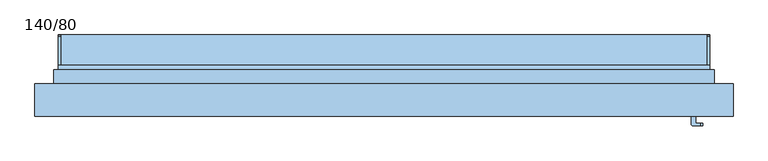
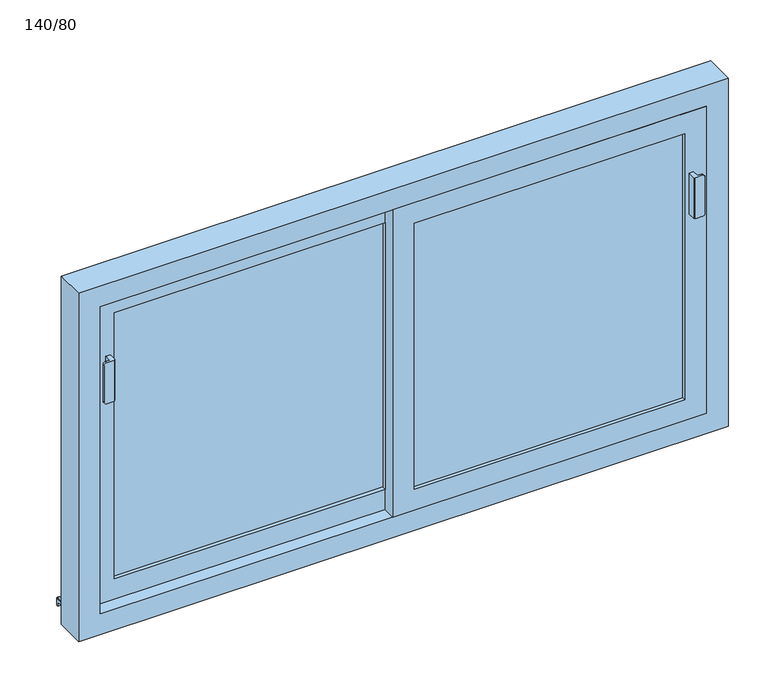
"""IFC4 building model written with IfcOpenShell, lengths in millimetres: window geometry, 2 Vantaux coulissants - Droits blanc : 140/80."""

import ifcopenshell
import ifcopenshell.guid

model = None  # the IFC model being written
_history = None  # IfcOwnerHistory: only IFC2X3 demands one
_inside = {}  # id of a spatial element -> (the spatial element, [elements in it])
_under = {}  # id of a project, library or spatial element -> (it, [spatial elements below it])
_declared = {}  # id of a project -> (the project, [libraries it declares])
_typed = {}  # id of a type object -> (the type object, [elements of that type])
_made_of = {}  # id of a material, layer set ... -> (it, [elements and type objects made of it])


def new_model(schema):
    """Start an empty IFC model of exactly this schema.

    Asked for "IFC4X3", IfcOpenShell would pick the latest addendum, in which some entities
    have other attributes; the version numbers below select the first issue.
    IFC2X3 requires an IfcOwnerHistory on every rooted entity: one is made here for all.
    """
    global model, _history
    if schema == "IFC4X3":
        model = ifcopenshell.file(schema_version=(4, 3, 0, 0))
    else:
        model = ifcopenshell.file(schema=schema)
    _inside.clear()
    _under.clear()
    _declared.clear()
    _typed.clear()
    _made_of.clear()
    _history = None
    if model.schema == "IFC2X3":
        org = make("IfcOrganization", Name="unknown")
        user = make(
            "IfcPersonAndOrganization",
            ThePerson=make("IfcPerson", FamilyName="unknown"),
            TheOrganization=org,
        )
        app = make(
            "IfcApplication",
            ApplicationDeveloper=org,
            Version="unknown",
            ApplicationFullName="unknown",
            ApplicationIdentifier="unknown",
        )
        _history = make(
            "IfcOwnerHistory",
            OwningUser=user,
            OwningApplication=app,
            ChangeAction="ADDED",
            CreationDate=0,
        )
    return model


def make(cls, **values):
    """One entity of the class cls with the attributes given. An attribute that is None is left unset."""
    return model.create_entity(
        cls, **{name: value for name, value in values.items() if value is not None}
    )


def rooted(cls, **values):
    """An entity with a GlobalId (a new one), such as an element, a storey or a relation."""
    return make(cls, GlobalId=ifcopenshell.guid.new(), OwnerHistory=_history, **values)


def si_unit(unit_type, name, prefix=None):
    """IfcSIUnit, for example si_unit("LENGTHUNIT", "METRE", prefix="MILLI")."""
    return make("IfcSIUnit", UnitType=unit_type, Prefix=prefix, Name=name)


def assignment(units):
    """IfcUnitAssignment: the units of a project."""
    return None if units is None else make("IfcUnitAssignment", Units=units)


def point(xyz):
    """IfcCartesianPoint."""
    return None if xyz is None else make("IfcCartesianPoint", Coordinates=xyz)


def direction(xyz):
    """IfcDirection."""
    return None if xyz is None else make("IfcDirection", DirectionRatios=xyz)


def frame(location, z_axis=None, x_axis=None):
    """IfcAxis2Placement3D, a coordinate frame: its origin and axes. An axis left out is left unset."""
    return make(
        "IfcAxis2Placement3D",
        Location=point(location),
        Axis=direction(z_axis),
        RefDirection=direction(x_axis),
    )


def frame_2d(location, x_axis=None):
    """IfcAxis2Placement2D, a coordinate frame in the plane: its origin and x axis."""
    return make(
        "IfcAxis2Placement2D", Location=point(location), RefDirection=direction(x_axis)
    )


def origin():
    """The frame at (0, 0, 0) with its axes left unset."""
    return frame((0.0, 0.0, 0.0))


def place(relative_to, where):
    """IfcLocalPlacement: puts the frame where relative to a parent placement (None: the world)."""
    return make(
        "IfcLocalPlacement", PlacementRelTo=relative_to, RelativePlacement=where
    )


def context(
    kind, dimensions, precision=None, world=None, true_north=None, identifier=None
):
    """IfcGeometricRepresentationContext, for example the 3D "Model" context."""
    return make(
        "IfcGeometricRepresentationContext",
        ContextIdentifier=identifier,
        ContextType=kind,
        CoordinateSpaceDimension=dimensions,
        Precision=precision,
        WorldCoordinateSystem=world,
        TrueNorth=true_north,
    )


def project(units=None, contexts=None):
    """IfcProject with its units and contexts."""
    return rooted(
        "IfcProject",
        Name="project",
        RepresentationContexts=contexts,
        UnitsInContext=assignment(units),
    )


def spatial(cls, under=None, at=None, **own):
    """A site, building, storey or space (cls), placed at a placement, below another one or the project."""
    s = rooted(cls, ObjectPlacement=at, **own)
    if under is not None:
        _under.setdefault(under.id(), (under, []))[1].append(s)
    return s


def polyline(points):
    """IfcPolyline through the points."""
    return make("IfcPolyline", Points=[point(p) for p in points])


def circle_curve(where, radius):
    """IfcCircle in the frame where."""
    return make("IfcCircle", Position=where, Radius=radius)


def trimmed(basis, trim1, trim2, sense, master):
    """IfcTrimmedCurve: the piece of a basis curve between two trims."""
    return make(
        "IfcTrimmedCurve",
        BasisCurve=basis,
        Trim1=trim1,
        Trim2=trim2,
        SenseAgreement=sense,
        MasterRepresentation=master,
    )


def segment(curve, same_sense, transition):
    """IfcCompositeCurveSegment."""
    return make(
        "IfcCompositeCurveSegment",
        Transition=transition,
        SameSense=same_sense,
        ParentCurve=curve,
    )


def composite_curve(segments, self_intersect=None):
    """IfcCompositeCurve: segments joined end to end."""
    return make("IfcCompositeCurve", Segments=segments, SelfIntersect=self_intersect)


def outline(outer, holes=None, kind="AREA"):
    """IfcArbitraryClosedProfileDef: a profile drawn as a closed curve; with holes, ...WithVoids."""
    if holes is None:
        return make("IfcArbitraryClosedProfileDef", ProfileType=kind, OuterCurve=outer)
    return make(
        "IfcArbitraryProfileDefWithVoids",
        ProfileType=kind,
        OuterCurve=outer,
        InnerCurves=holes,
    )


def extrude(swept, where, along, depth):
    """IfcExtrudedAreaSolid: the profile swept, set in the frame where, extruded along a direction by depth."""
    return make(
        "IfcExtrudedAreaSolid",
        SweptArea=swept,
        Position=where,
        ExtrudedDirection=direction(along),
        Depth=depth,
    )


def faces_of(points, faces, orient=None, outer=None):
    """IfcFace entities. A face is a list of loops; a loop is a list of indices into points, from 0.

    orient and outer hold one flag for each loop. By default every Orientation is true, the
    first loop of a face is its IfcFaceOuterBound and the others are IfcFaceBound.
    """
    made = []
    for i, loops in enumerate(faces):
        bounds = []
        for j, loop in enumerate(loops):
            is_outer = j == 0 if outer is None else outer[i][j]
            bounds.append(
                make(
                    "IfcFaceOuterBound" if is_outer else "IfcFaceBound",
                    Bound=make("IfcPolyLoop", Polygon=[points[k] for k in loop]),
                    Orientation=True if orient is None else orient[i][j],
                )
            )
        made.append(make("IfcFace", Bounds=bounds))
    return made


def faceted_brep(points, faces, orient=None, outer=None, voids=None):
    """IfcFacetedBrep: a solid bounded by flat faces; with voids (closed shells), ...WithVoids."""
    shared = [point(p) for p in points]
    hull = make("IfcClosedShell", CfsFaces=faces_of(shared, faces, orient, outer))
    if voids is None:
        return make("IfcFacetedBrep", Outer=hull)
    return make(
        "IfcFacetedBrepWithVoids",
        Outer=hull,
        Voids=[
            make(cls, CfsFaces=faces_of(shared, fs, o, b)) for cls, fs, o, b in voids
        ],
    )


def shape(context_of_items, identifier, shape_type, items):
    """IfcShapeRepresentation: the items that make up one representation, for example the "Body"."""
    return make(
        "IfcShapeRepresentation",
        ContextOfItems=context_of_items,
        RepresentationIdentifier=identifier,
        RepresentationType=shape_type,
        Items=items,
    )


def source(mapping_origin, context_of_items, identifier, shape_type, items):
    """IfcRepresentationMap: a shape defined once, which mapped items show again and again."""
    return make(
        "IfcRepresentationMap",
        MappingOrigin=mapping_origin,
        MappedRepresentation=shape(context_of_items, identifier, shape_type, items),
    )


def transform(
    local_origin,
    x_axis=None,
    y_axis=None,
    z_axis=None,
    scale=None,
    scale2=None,
    scale3=None,
    uniform=True,
):
    """IfcCartesianTransformationOperator3D, or its non-uniform kind. x_axis, y_axis, z_axis: its Axis1, 2, 3."""
    if uniform:
        return make(
            "IfcCartesianTransformationOperator3D",
            Axis1=direction(x_axis),
            Axis2=direction(y_axis),
            LocalOrigin=point(local_origin),
            Scale=scale,
            Axis3=direction(z_axis),
        )
    return make(
        "IfcCartesianTransformationOperator3DnonUniform",
        Axis1=direction(x_axis),
        Axis2=direction(y_axis),
        LocalOrigin=point(local_origin),
        Scale=scale,
        Axis3=direction(z_axis),
        Scale2=scale2,
        Scale3=scale3,
    )


def mapped(mapping_source, mapping_target):
    """IfcMappedItem: shows the shape of a source again, moved by a transform."""
    return make(
        "IfcMappedItem", MappingSource=mapping_source, MappingTarget=mapping_target
    )


def made_of(thing, what):
    """Note that an element or type object is made of a material, layer set ...; save() writes the relation."""
    if what is not None:
        _made_of.setdefault(what.id(), (what, []))[1].append(thing)
    return thing


def element(
    cls,
    number,
    at=None,
    inside=None,
    cuts=None,
    type_object=None,
    material=None,
    context=None,
    identifier="Body",
    shape_type=None,
    held_by="IfcProductDefinitionShape",
    body=None,
    shapes=None,
    **own,
):
    """One element of the class cls, such as IfcWall. Its Tag is "e" and its number.

    at: its placement. inside: the storey or other place that contains it. cuts: it is an
    opening in that element (IfcRelVoidsElement). A single representation is given by context,
    identifier, shape_type and body (its items); several are given by shapes. held_by: the class
    of the entity that holds the representations. save() writes the other relations.
    """
    e = rooted(cls, Tag="e%d" % number, ObjectPlacement=at, **own)
    if body is not None:
        shapes = [shape(context, identifier, shape_type, body)]
    if shapes is not None:
        e.Representation = make(held_by, Representations=shapes)
    if inside is not None:
        _inside.setdefault(inside.id(), (inside, []))[1].append(e)
    if cuts is not None:
        rooted(
            "IfcRelVoidsElement", RelatingBuildingElement=cuts, RelatedOpeningElement=e
        )
    if type_object is not None:
        _typed.setdefault(type_object.id(), (type_object, []))[1].append(e)
    return made_of(e, material)


def aggregate(whole, parts):
    """IfcRelAggregates: a whole, such as a stair, and the parts it consists of."""
    return rooted("IfcRelAggregates", RelatingObject=whole, RelatedObjects=parts)


def save(model, path):
    """Write the relations noted so far, then the file.

    IfcRelAggregates (storeys below a building ...), IfcRelContainedInSpatialStructure (elements
    in a storey), IfcRelDefinesByType, IfcRelAssociatesMaterial and IfcRelDeclares: one each for
    every whole, place, type object, material and project.
    """
    for whole, parts in _under.values():
        aggregate(whole, parts)
    for where, things in _inside.values():
        rooted(
            "IfcRelContainedInSpatialStructure",
            RelatedElements=things,
            RelatingStructure=where,
        )
    for kind, things in _typed.values():
        rooted("IfcRelDefinesByType", RelatedObjects=things, RelatingType=kind)
    for what, things in _made_of.values():
        rooted("IfcRelAssociatesMaterial", RelatedObjects=things, RelatingMaterial=what)
    for by, libraries in _declared.values():
        rooted("IfcRelDeclares", RelatingContext=by, RelatedDefinitions=libraries)
    model.write(path)


def plane_surface(at):
    """IfcPlane: the flat surface through the origin of the frame at, square to its z axis."""
    return make("IfcPlane", Position=at)


def cylinder_surface(at, radius):
    """IfcCylindricalSurface: all points at the distance radius from the z axis of the frame at."""
    return make("IfcCylindricalSurface", Position=at, Radius=radius)


def advanced_brep(points, edges, surfaces, faces):
    """IfcAdvancedBrep: a solid bounded by faces that lie on surfaces and meet in shared edges.

    An edge is (start, end): straight between two places in points (the first is 0);
    or (start, end, curve); or (start, end, curve, False) where it runs against its curve.
    A face is (place in surfaces, loops), or (place, loops, False) where it looks against
    its surface's normal. A loop lists edges by number (the first is 1), with a minus sign
    where the edge is run from its end to its start. The first loop is the outer one.
    """
    corners = [point(p) for p in points]
    vertices = [make("IfcVertexPoint", VertexGeometry=c) for c in corners]
    made = []
    for start, end, *more in edges:
        made.append(
            make(
                "IfcEdgeCurve",
                EdgeStart=vertices[start],
                EdgeEnd=vertices[end],
                EdgeGeometry=more[0] if more else make("IfcPolyline", Points=[corners[start], corners[end]]),
                SameSense=more[1] if len(more) > 1 else True,
            )
        )
    hull = []
    for where, loops, *sense in faces:
        bounds = []
        for j, loop in enumerate(loops):
            ring = [make("IfcOrientedEdge", EdgeElement=made[abs(k) - 1], Orientation=k > 0) for k in loop]
            bounds.append(
                make(
                    "IfcFaceOuterBound" if j == 0 else "IfcFaceBound",
                    Bound=make("IfcEdgeLoop", EdgeList=ring),
                    Orientation=True,
                )
            )
        hull.append(make("IfcAdvancedFace", Bounds=bounds, FaceSurface=surfaces[where], SameSense=sense[0] if sense else True))
    return make("IfcAdvancedBrep", Outer=make("IfcClosedShell", CfsFaces=hull))


def window_140_80_76053404(model_context):
    return source(origin(), model_context, "Body", "SolidModel", [
        advanced_brep(
        [(-660.0, -67.5313182, 1350.0), (-662.4686818, -70.0, 1350.0), (-679.0477825, -70.0, 1350.0), (-679.0477825, -65.0, 1350.0), (-670.0, -65.0, 1350.0), (-670.0, -50.0, 1350.0), (-660.0, -50.0, 1350.0), (-660.0, -67.5313182, 1450.0), (-660.0, -50.0, 1450.0), (-670.0, -50.0, 1450.0), (-670.0, -65.0, 1450.0), (-679.0477825, -65.0, 1450.0), (-679.0477825, -70.0, 1450.0), (-662.4686818, -70.0, 1450.0), (-685.0, -65.0, 1355.9522175), (-685.0, -65.0, 1444.0477825), (-685.0, -70.0, 1355.9522175), (-685.0, -70.0, 1444.0477825)],
        [
            (0, 1),
            (1, 2),
            (2, 3),
            (3, 4),
            (4, 5),
            (5, 6),
            (6, 0),
            (7, 8),
            (8, 9),
            (9, 10),
            (10, 11),
            (11, 12),
            (12, 13),
            (13, 7),
            (6, 8),
            (7, 0),
            (5, 9),
            (4, 10),
            (3, 14, circle_curve(frame((-679.0477825, -65.0, 1355.9522175), z_axis=(0.0, 1.0, 0.0), x_axis=(-1.0, 0.0, 0.0)), 5.9522175)),
            (14, 15),
            (15, 11, circle_curve(frame((-679.0477825, -65.0, 1444.0477825), z_axis=(0.0, 1.0, 0.0), x_axis=(-1.0, 0.0, 0.0)), 5.9522175)),
            (14, 16),
            (16, 17),
            (17, 15),
            (12, 17, circle_curve(frame((-679.0477825, -70.0, 1444.0477825), z_axis=(0.0, -1.0, 0.0), x_axis=(-1.0, 0.0, 0.0)), 5.9522175)),
            (16, 2, circle_curve(frame((-679.0477825, -70.0, 1355.9522175), z_axis=(0.0, -1.0, 0.0), x_axis=(-1.0, 0.0, 0.0)), 5.9522175)),
            (1, 13),
        ],
        [
            plane_surface(frame((-660.0, -50.0, 1350.0), z_axis=(0.0, 0.0, -1.0), x_axis=(0.0, 1.0, 0.0))),
            plane_surface(frame((-660.0, -50.0, 1450.0), z_axis=(0.0, 0.0, 1.0), x_axis=(0.0, -1.0, 0.0))),
            plane_surface(frame((-660.0, -67.5313182, 1350.0), z_axis=(1.0, 0.0, 0.0), x_axis=(0.0, 0.0, 1.0))),
            plane_surface(frame((-660.0, -50.0, 1350.0), z_axis=(0.0, 1.0, 0.0), x_axis=(0.0, 0.0, 1.0))),
            plane_surface(frame((-670.0, -50.0, 1350.0), z_axis=(-1.0, 0.0, 0.0), x_axis=(0.0, 0.0, 1.0))),
            plane_surface(frame((-670.0, -65.0, 1350.0), z_axis=(0.0, 1.0, 0.0), x_axis=(0.0, 0.0, 1.0))),
            plane_surface(frame((-685.0, -65.0, 1350.0), z_axis=(-1.0, 0.0, 0.0), x_axis=(0.0, 0.0, 1.0))),
            plane_surface(frame((-685.0, -70.0, 1350.0), z_axis=(0.0, -1.0, 0.0), x_axis=(0.0, 0.0, 1.0))),
            plane_surface(frame((-662.4686818, -70.0, 1350.0), z_axis=(0.7071067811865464, -0.7071067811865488, 0.0), x_axis=(0.0, 0.0, 1.0))),
            cylinder_surface(frame((-679.0477825, -65.0, 1444.0477825), z_axis=(0.0, 1.0, 0.0), x_axis=(-1.0, 0.0, 0.0)), 5.9522175),
            cylinder_surface(frame((-679.0477825, -65.0, 1355.9522175), z_axis=(0.0, 1.0, 0.0), x_axis=(-1.0, 0.0, 0.0)), 5.9522175),
        ],
        [
            (0, [[1, 2, 3, 4, 5, 6, 7]]),
            (1, [[8, 9, 10, 11, 12, 13, 14]]),
            (2, [[15, -8, 16, -7]]),
            (3, [[17, -9, -15, -6]]),
            (4, [[18, -10, -17, -5]]),
            (5, [[-4, 19, 20, 21, -11, -18]]),
            (6, [[22, 23, 24, -20]]),
            (7, [[-13, 25, -23, 26, -2, 27]]),
            (8, [[-16, -14, -27, -1]]),
            (9, [[-21, -24, -25, -12]]),
            (10, [[-26, -22, -19, -3]]),
        ],
    ),
        advanced_brep(
        [(660.0, -97.5313182, 1350.0), (660.0, -80.0, 1350.0), (670.0, -80.0, 1350.0), (670.0, -95.0, 1350.0), (679.0477825, -95.0, 1350.0), (679.0477825, -100.0, 1350.0), (662.4686818, -100.0, 1350.0), (660.0, -97.5313182, 1450.0), (662.4686818, -100.0, 1450.0), (679.0477825, -100.0, 1450.0), (679.0477825, -95.0, 1450.0), (670.0, -95.0, 1450.0), (670.0, -80.0, 1450.0), (660.0, -80.0, 1450.0), (685.0, -95.0, 1444.0477825), (685.0, -95.0, 1355.9522175), (685.0, -100.0, 1444.0477825), (685.0, -100.0, 1355.9522175)],
        [
            (0, 1),
            (1, 2),
            (2, 3),
            (3, 4),
            (4, 5),
            (5, 6),
            (6, 0),
            (7, 8),
            (8, 9),
            (9, 10),
            (10, 11),
            (11, 12),
            (12, 13),
            (13, 7),
            (0, 7),
            (13, 1),
            (12, 2),
            (11, 3),
            (10, 14, circle_curve(frame((679.0477825, -95.0, 1444.0477825), z_axis=(0.0, 1.0, 0.0), x_axis=(1.0, 0.0, 0.0)), 5.9522175)),
            (14, 15),
            (15, 4, circle_curve(frame((679.0477825, -95.0, 1355.9522175), z_axis=(0.0, 1.0, 0.0), x_axis=(1.0, 0.0, 0.0)), 5.9522175)),
            (14, 16),
            (16, 17),
            (17, 15),
            (8, 6),
            (5, 17, circle_curve(frame((679.0477825, -100.0, 1355.9522175), z_axis=(0.0, -1.0, 0.0), x_axis=(1.0, 0.0, 0.0)), 5.9522175)),
            (16, 9, circle_curve(frame((679.0477825, -100.0, 1444.0477825), z_axis=(0.0, -1.0, 0.0), x_axis=(1.0, 0.0, 0.0)), 5.9522175)),
        ],
        [
            plane_surface(frame((660.0, -80.0, 1350.0), z_axis=(0.0, 0.0, -1.0), x_axis=(0.0, 1.0, 0.0))),
            plane_surface(frame((660.0, -80.0, 1450.0), z_axis=(0.0, 0.0, 1.0), x_axis=(0.0, -1.0, 0.0))),
            plane_surface(frame((660.0, -97.5313182, 1350.0), z_axis=(-1.0, 0.0, 0.0), x_axis=(0.0, 0.0, 1.0))),
            plane_surface(frame((660.0, -80.0, 1350.0), z_axis=(0.0, 1.0, 0.0), x_axis=(0.0, 0.0, 1.0))),
            plane_surface(frame((670.0, -80.0, 1350.0), z_axis=(1.0, 0.0, 0.0), x_axis=(0.0, 0.0, 1.0))),
            plane_surface(frame((670.0, -95.0, 1350.0), z_axis=(0.0, 1.0, 0.0), x_axis=(0.0, 0.0, 1.0))),
            plane_surface(frame((685.0, -95.0, 1350.0), z_axis=(1.0, 0.0, 0.0), x_axis=(0.0, 0.0, 1.0))),
            plane_surface(frame((685.0, -100.0, 1350.0), z_axis=(0.0, -1.0, 0.0), x_axis=(0.0, 0.0, 1.0))),
            plane_surface(frame((662.4686818, -100.0, 1350.0), z_axis=(-0.7071067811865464, -0.7071067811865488, 0.0), x_axis=(0.0, 0.0, 1.0))),
            cylinder_surface(frame((679.0477825, -95.0, 1444.0477825), z_axis=(0.0, 1.0, 0.0), x_axis=(1.0, 0.0, 0.0)), 5.9522175),
            cylinder_surface(frame((679.0477825, -95.0, 1355.9522175), z_axis=(0.0, 1.0, 0.0), x_axis=(1.0, 0.0, 0.0)), 5.9522175),
        ],
        [
            (0, [[1, 2, 3, 4, 5, 6, 7]]),
            (1, [[8, 9, 10, 11, 12, 13, 14]]),
            (2, [[-1, 15, -14, 16]]),
            (3, [[-2, -16, -13, 17]]),
            (4, [[-3, -17, -12, 18]]),
            (5, [[-18, -11, 19, 20, 21, -4]]),
            (6, [[-20, 22, 23, 24]]),
            (7, [[25, -6, 26, -23, 27, -9]]),
            (8, [[-7, -25, -8, -15]]),
            (9, [[-10, -27, -22, -19]]),
            (10, [[-5, -21, -24, -26]]),
        ],
    ),
        extrude(outline(polyline([(95.0, 780.2703094), (95.0, 764.7145929), (90.0, 765.2401141), (90.0, 775.5406188), (0.0, 785.0), (0.0, 800.0), (5.0, 800.0), (5.0, 789.7296906), (95.0, 780.2703094)])), frame((-700.0, 0.0, 0.0), z_axis=(1.0, 0.0, 0.0), x_axis=(0.0, 1.0, 0.0)), (0.0, 0.0, 1.0), 1400.0),
        extrude(outline(composite_curve([segment(polyline([(95.0, 780.2703094), (5.0, 789.7296906), (5.0, 794.757232), (91.4181139, 785.6743222)]), True, "CONTINUOUS"), segment(trimmed(circle_curve(frame_2d((91.0, 781.6962346)), 4.0), [point((91.4181139, 785.6743222))], [point((95.0, 781.6962346))], False, "CARTESIAN"), True, "CONTINUOUS"), segment(polyline([(95.0, 781.6962346), (95.0, 780.2703094)]), True, "CONTINUOUS")], self_intersect=False)), frame((-700.0, 0.0, 0.0), z_axis=(1.0, 0.0, 0.0), x_axis=(0.0, 1.0, 0.0)), (0.0, 0.0, 1.0), 5.0),
        extrude(outline(composite_curve([segment(polyline([(95.0, 780.2703094), (5.0, 789.7296906), (5.0, 794.757232), (91.4181139, 785.6743222)]), True, "CONTINUOUS"), segment(trimmed(circle_curve(frame_2d((91.0, 781.6962346)), 4.0), [point((91.4181139, 785.6743222))], [point((95.0, 781.6962346))], False, "CARTESIAN"), True, "CONTINUOUS"), segment(polyline([(95.0, 781.6962346), (95.0, 780.2703094)]), True, "CONTINUOUS")], self_intersect=False)), frame((695.0, 0.0, 0.0), z_axis=(1.0, 0.0, 0.0), x_axis=(0.0, 1.0, 0.0)), (0.0, 0.0, 1.0), 5.0),
        extrude(outline(polyline([(-650.0, -29.0), (-25.0, -29.0), (-25.0, -41.0), (-650.0, -41.0), (-650.0, -29.0)])), frame((0.0, 0.0, 900.0), z_axis=(0.0, 0.0, 1.0), x_axis=(1.0, 0.0, 0.0)), (0.0, 0.0, 1.0), 650.0),
        extrude(outline(polyline([(850.0, 25.0), (1600.0, 25.0), (1600.0, -700.0), (850.0, -700.0), (850.0, 25.0)]), holes=[polyline([(900.0, -650.0), (1550.0, -650.0), (1550.0, -25.0), (900.0, -25.0), (900.0, -650.0)])]), frame((0.0, -50.0, 0.0), z_axis=(0.0, 1.0, 0.0), x_axis=(0.0, 0.0, 1.0)), (0.0, 0.0, 1.0), 30.0),
        extrude(outline(polyline([(25.0, -59.0), (650.0, -59.0), (650.0, -71.0), (25.0, -71.0), (25.0, -59.0)])), frame((0.0, 0.0, 900.0), z_axis=(0.0, 0.0, 1.0), x_axis=(1.0, 0.0, 0.0)), (0.0, 0.0, 1.0), 650.0),
        extrude(outline(polyline([(850.0, 700.0), (1600.0, 700.0), (1600.0, -25.0), (850.0, -25.0), (850.0, 700.0)]), holes=[polyline([(900.0, 25.0), (1550.0, 25.0), (1550.0, 650.0), (900.0, 650.0), (900.0, 25.0)])]), frame((0.0, -80.0, 0.0), z_axis=(0.0, 1.0, 0.0), x_axis=(0.0, 0.0, 1.0)), (0.0, 0.0, 1.0), 30.0),
        faceted_brep([(-750.0, -80.0, 800.0), (-750.0, -10.0, 800.0), (-700.0, -10.0, 800.0), (-700.0, 20.0, 800.0), (700.0, 20.0, 800.0), (700.0, -10.0, 800.0), (750.0, -10.0, 800.0), (750.0, -80.0, 800.0), (-750.0, -80.0, 1650.0), (-750.0, -10.0, 1650.0), (750.0, -10.0, 1650.0), (700.0, -10.0, 839.3761425), (-700.0, -10.0, 839.3761425), (-685.0, -10.0, 1585.0), (-685.0, -10.0, 865.0), (685.0, -10.0, 865.0), (685.0, -10.0, 1585.0), (-700.0, 30.0, 828.6581748), (-700.0, 30.0, 795.0), (-700.0, 20.0, 795.0), (700.0, 20.0, 795.0), (700.0, 30.0, 795.0), (700.0, 30.0, 828.6581748), (750.0, -80.0, 1650.0), (700.0, -80.0, 1600.0), (700.0, -80.0, 850.0), (-700.0, -80.0, 850.0), (-700.0, -80.0, 1600.0), (-685.0, -20.0, 1585.0), (-685.0, -20.0, 865.0), (685.0, -20.0, 865.0), (685.0, -20.0, 1585.0), (700.0, -20.0, 1600.0), (-700.0, -20.0, 1600.0), (-700.0, -20.0, 850.0), (700.0, -20.0, 850.0)], [[[0, 1, 2, 3, 4, 5, 6, 7]], [[1, 0, 8, 9]], [[1, 9, 10, 6, 5, 11, 12, 2], [13, 14, 15, 16]], [[12, 17, 18, 19, 3, 2]], [[3, 19, 20, 4]], [[4, 20, 21, 22, 11, 5]], [[6, 10, 23, 7]], [[0, 7, 23, 8], [24, 25, 26, 27]], [[13, 28, 29, 14]], [[29, 30, 15, 14]], [[31, 16, 15, 30]], [[17, 12, 11, 22]], [[32, 33, 34, 35], [28, 31, 30, 29]], [[34, 33, 27, 26]], [[26, 25, 35, 34]], [[24, 32, 35, 25]], [[18, 17, 22, 21]], [[19, 18, 21, 20]], [[13, 16, 31, 28]], [[33, 32, 24, 27]], [[10, 9, 8, 23]]]),
        extrude(outline(polyline([(800.0, -710.0), (800.0, -700.0), (1600.0, -700.0), (1600.0, 700.0), (800.0, 700.0), (800.0, 710.0), (1610.0, 710.0), (1610.0, -710.0), (800.0, -710.0)])), frame((0.0, -10.0, 0.0), z_axis=(0.0, 1.0, 0.0), x_axis=(0.0, 0.0, 1.0)), (0.0, 0.0, 1.0), 30.0),
    ])


if __name__ == "__main__":
    model = new_model("IFC4")
    model_context = context("Model", 3, world=origin())
    ifc_project = project(units=[si_unit("LENGTHUNIT", "METRE", prefix="MILLI")], contexts=[model_context])
    site = spatial("IfcSite", under=ifc_project)
    building = spatial("IfcBuilding", under=site)
    placement = place(None, origin())
    window_140_80_shape = window_140_80_76053404(model_context)
    element("IfcWindow", 1, ObjectType="2 Vantaux coulissants - Droits blanc : 140/80", at=placement, inside=building, context=model_context, shape_type="MappedRepresentation", body=[
        mapped(window_140_80_shape, transform((0.0, 0.0, 0.0), x_axis=(1.0, 0.0, 0.0), y_axis=(0.0, 1.0, 0.0), z_axis=(0.0, 0.0, 1.0))),
    ])
    save(model, "model.ifc")
